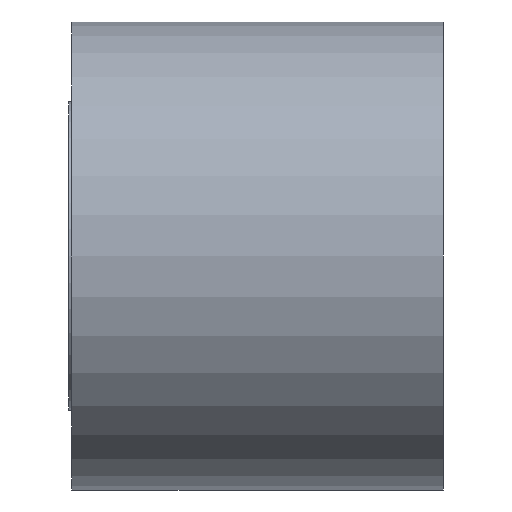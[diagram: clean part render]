
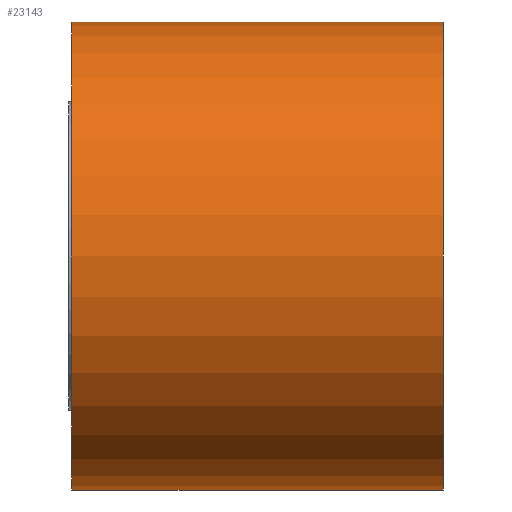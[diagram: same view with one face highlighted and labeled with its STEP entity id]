
A CAD part, left-side view. The second image highlights one B-rep face of the part: STEP entity #23143.
In plain terms, the highlighted cylindrical face has radius 75 mm (diameter 150 mm), a partial arc.
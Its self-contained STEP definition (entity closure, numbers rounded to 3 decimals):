
#149 = ORIENTED_EDGE ( 'NONE', *, *, #6701, .T. ) ;
#485 = ORIENTED_EDGE ( 'NONE', *, *, #7041, .T. ) ;
#743 = ORIENTED_EDGE ( 'NONE', *, *, #7623, .F. ) ;
#1264 = ORIENTED_EDGE ( 'NONE', *, *, #7023, .T. ) ;
#2923 = CARTESIAN_POINT ( 'NONE',  ( 0., 119., 75. ) ) ;
#3020 = CARTESIAN_POINT ( 'NONE',  ( 0., 0., -75. ) ) ;
#3168 = CARTESIAN_POINT ( 'NONE',  ( 0., 119., -75. ) ) ;
#3720 = CARTESIAN_POINT ( 'NONE',  ( 0., 0., 75. ) ) ;
#5681 = AXIS2_PLACEMENT_3D ( 'NONE', #10894, #10753, #10900 ) ;
#6701 = EDGE_CURVE ( 'NONE', #12295, #12648, #23675, .T. ) ;
#7023 = EDGE_CURVE ( 'NONE', #12648, #12367, #23727, .T. ) ;
#7041 = EDGE_CURVE ( 'NONE', #12338, #12295, #23995, .T. ) ;
#7165 = AXIS2_PLACEMENT_3D ( 'NONE', #18252, #17629, #18460 ) ;
#7166 = AXIS2_PLACEMENT_3D ( 'NONE', #18298, #18398, #17792 ) ;
#7623 = EDGE_CURVE ( 'NONE', #12338, #12367, #9925, .T. ) ;
#9925 = LINE ( 'NONE', #18102, #9942 ) ;
#9942 = VECTOR ( 'NONE', #17471, 1000. ) ;
#10753 = DIRECTION ( 'NONE',  ( 0., -1., 0. ) ) ;
#10894 = CARTESIAN_POINT ( 'NONE',  ( 0., 119., 0. ) ) ;
#10900 = DIRECTION ( 'NONE',  ( 0., 0., -1. ) ) ;
#11944 = DIRECTION ( 'NONE',  ( 0., -1., 0. ) ) ;
#11965 = CARTESIAN_POINT ( 'NONE',  ( 0., 119., -75. ) ) ;
#12295 = VERTEX_POINT ( 'NONE', #3168 ) ;
#12338 = VERTEX_POINT ( 'NONE', #2923 ) ;
#12367 = VERTEX_POINT ( 'NONE', #3720 ) ;
#12648 = VERTEX_POINT ( 'NONE', #3020 ) ;
#14134 = EDGE_LOOP ( 'NONE', ( #743, #485, #149, #1264 ) ) ;
#17471 = DIRECTION ( 'NONE',  ( 0., -1., 0. ) ) ;
#17629 = DIRECTION ( 'NONE',  ( 0., 1., 0. ) ) ;
#17792 = DIRECTION ( 'NONE',  ( 0., 0., -1. ) ) ;
#18102 = CARTESIAN_POINT ( 'NONE',  ( 0., 119., 75. ) ) ;
#18252 = CARTESIAN_POINT ( 'NONE',  ( 0., 0., 0. ) ) ;
#18298 = CARTESIAN_POINT ( 'NONE',  ( 0., 119., 0. ) ) ;
#18398 = DIRECTION ( 'NONE',  ( 0., -1., 0. ) ) ;
#18460 = DIRECTION ( 'NONE',  ( 0., 0., -1. ) ) ;
#19226 = FACE_OUTER_BOUND ( 'NONE', #14134, .T. ) ;
#19454 = CYLINDRICAL_SURFACE ( 'NONE', #5681, 75. ) ;
#23143 = ADVANCED_FACE ( 'NONE', ( #19226 ), #19454, .T. ) ;
#23591 = VECTOR ( 'NONE', #11944, 1000. ) ;
#23675 = LINE ( 'NONE', #11965, #23591 ) ;
#23727 = CIRCLE ( 'NONE', #7165, 75. ) ;
#23995 = CIRCLE ( 'NONE', #7166, 75. ) ;
